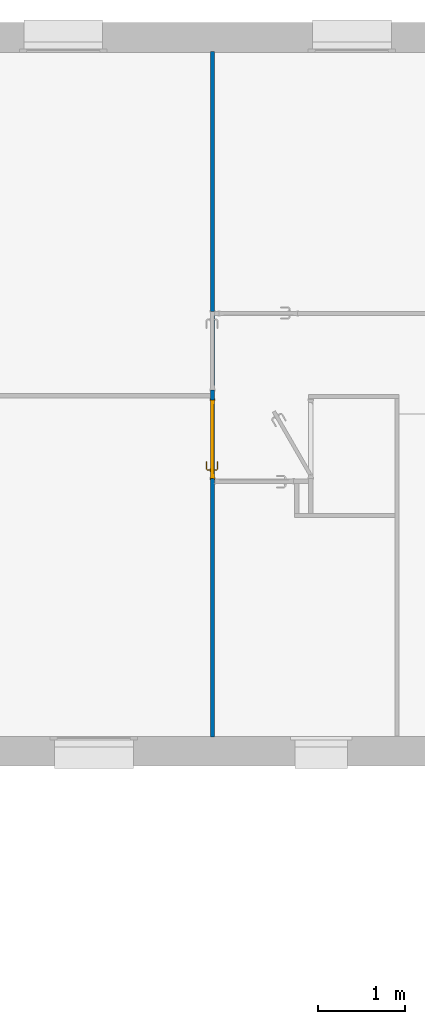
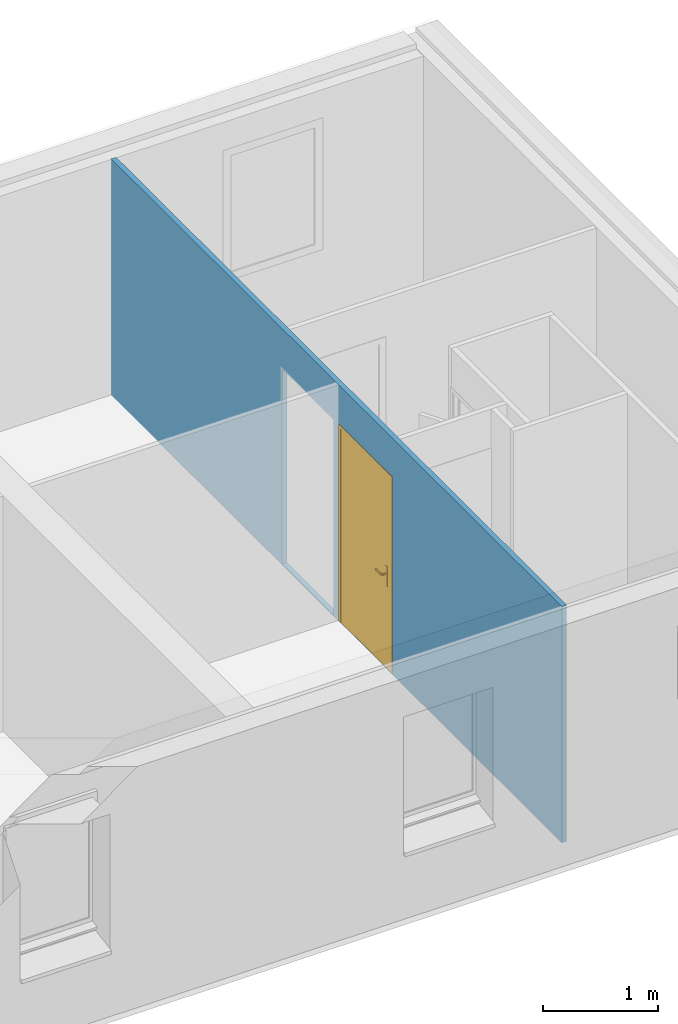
# One storey, part 8 of 13: 1 door, 1 wall, 3 openings.
"""IFC2X3 building model written with IfcOpenShell, lengths in metres."""

from ifc_helpers import new_model, entity, si_unit, converted_unit, derived_unit, direction, frame, frame_2d, origin, place, context, subcontext, project, spatial, rectangle, extrude, faceted_brep, source, transform, mapped, material, material_list, layer, layer_set, layer_usage, type_object, type_shapes, element, fill, save


model = new_model("IFC2X3")

# Units and contexts
model_context = context("Model", 3, precision=1e-05, world=origin(), true_north=direction((6.12303176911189e-17, 1.0)))
context_of_model = context(None, 3, precision=1e-05, world=origin(), true_north=direction((6.12303176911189e-17, 1.0)))
body_context = subcontext(model_context, "Body", "Model", "MODEL_VIEW")
ifc_project = project(units=[si_unit("LENGTHUNIT", "METRE"), si_unit("AREAUNIT", "SQUARE_METRE"), si_unit("VOLUMEUNIT", "CUBIC_METRE"), converted_unit("PLANEANGLEUNIT", "DEGREE", entity("IfcRatioMeasure", 0.0174532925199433), si_unit("PLANEANGLEUNIT", "RADIAN"), dimensions=[0, 0, 0, 0, 0, 0, 0]), si_unit("MASSUNIT", "GRAM", prefix="KILO"), si_unit("TIMEUNIT", "SECOND"), si_unit("FREQUENCYUNIT", "HERTZ"), si_unit("THERMODYNAMICTEMPERATUREUNIT", "DEGREE_CELSIUS"), derived_unit("THERMALTRANSMITTANCEUNIT", [(si_unit("MASSUNIT", "GRAM", prefix="KILO"), 1), (si_unit("THERMODYNAMICTEMPERATUREUNIT", "KELVIN"), -1), (si_unit("TIMEUNIT", "SECOND"), -3)]), derived_unit("VOLUMETRICFLOWRATEUNIT", [(si_unit("LENGTHUNIT", "METRE"), 3), (si_unit("TIMEUNIT", "SECOND"), -1)]), si_unit("ELECTRICCURRENTUNIT", "AMPERE"), si_unit("ELECTRICVOLTAGEUNIT", "VOLT"), si_unit("POWERUNIT", "WATT"), si_unit("FORCEUNIT", "NEWTON", prefix="KILO"), si_unit("ILLUMINANCEUNIT", "LUX"), si_unit("LUMINOUSFLUXUNIT", "LUMEN"), si_unit("LUMINOUSINTENSITYUNIT", "CANDELA"), derived_unit("USERDEFINED", [(si_unit("MASSUNIT", "GRAM", prefix="KILO"), -1), (si_unit("LENGTHUNIT", "METRE"), -2), (si_unit("TIMEUNIT", "SECOND"), 3), (si_unit("LUMINOUSFLUXUNIT", "LUMEN"), 1)]), derived_unit("LINEARVELOCITYUNIT", [(si_unit("LENGTHUNIT", "METRE"), 1), (si_unit("TIMEUNIT", "SECOND"), -1)]), si_unit("PRESSUREUNIT", "PASCAL"), derived_unit("USERDEFINED", [(si_unit("LENGTHUNIT", "METRE"), -2), (si_unit("MASSUNIT", "GRAM", prefix="KILO"), 1), (si_unit("TIMEUNIT", "SECOND"), -2)])], contexts=[model_context, context_of_model])

# Site, building, storey
site_placement = place(None, origin())
site = spatial("IfcSite", under=ifc_project, at=site_placement, Name="Surface", CompositionType="ELEMENT")
building_placement = place(site_placement, origin())
building = spatial("IfcBuilding", under=site, at=building_placement, CompositionType="ELEMENT")
storey_placement = place(building_placement, frame((0.0, 0.0, 2.74)))
storey = spatial("IfcBuildingStorey", under=building, at=storey_placement, Name="Plan étage", CompositionType="ELEMENT", Elevation=2.74)

# Wall, openings, door
ifc_material_1 = material(Name="Maçonnerie - Isolant(1)")
ifc_layer = layer(ifc_material_1, 0.05)
ifc_layer_set = layer_set([ifc_layer], Name="Mur de base:Int. plâtre 50 mm")
ifc_layer_usage = layer_usage(ifc_layer_set, "AXIS2", "NEGATIVE", 0.025)
wall_type = type_object("IfcWallType", Name="Mur de base:Int. plâtre 50 mm", PredefinedType="STANDARD", material=ifc_layer_set)
wall_placement = place(storey_placement, frame((-1.68108881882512, 5.35425578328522, -0.00999999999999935), z_axis=(0.0, 0.0, 1.0), x_axis=(0.0, -1.0, 0.0)))
wall = element("IfcWallStandardCase", 1, at=wall_placement, inside=storey, type_object=wall_type, material=ifc_layer_usage, Name="Mur de base:Int. plâtre 50 mm", ObjectType="Mur de base:Int. plâtre 50 mm", context=body_context, shape_type="SweptSolid", body=[
    extrude(rectangle(XDim=7.84000000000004, YDim=0.05, at=frame_2d((3.92000000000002, 0.0), x_axis=(-1.0, 0.0))), origin(), (0.0, 0.0, 1.0), 2.51),
])
opening_1_placement = place(wall_placement, origin())
element("IfcOpeningElement", 2, at=opening_1_placement, cuts=wall, Name="Mur de base:Int. plâtre 50 mm", ObjectType="Opening", context=body_context, shape_type="SweptSolid", body=[
    extrude(rectangle(XDim=2.075, YDim=0.05, at=frame_2d((0.0, 3.33066907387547e-16), x_axis=(0.0, 1.0))), frame((4.915, 0.0274999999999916, 1.0475), z_axis=(0.0, 1.0, 0.0), x_axis=(1.0, 0.0, 0.0)), (0.0, 0.0, 1.0), 0.9),
])
opening_2_placement = place(wall_placement, frame((4.8825, 0.025, 0.00999999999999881)))
opening_2 = element("IfcOpeningElement", 3, at=opening_2_placement, cuts=wall, Name="Int. Simple:PP (0.83m x 2.04m):1", ObjectType="Opening", context=body_context, shape_type="SweptSolid", body=[
    extrude(rectangle(XDim=2.075, YDim=0.9, at=frame_2d((1.0375, 0.45), x_axis=(1.0, 0.0))), frame((0.0, 0.0, 0.0), z_axis=(0.0, -1.0, 0.0), x_axis=(0.0, 0.0, 1.0)), (0.0, 0.0, 1.0), 0.05),
])
opening_3_placement = place(wall_placement, frame((3.87, 0.025, 0.00999999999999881)))
element("IfcOpeningElement", 4, at=opening_3_placement, cuts=wall, Name="Int. Simple:PP (0.83m x 2.04m):1", ObjectType="Opening", context=body_context, shape_type="SweptSolid", body=[
    extrude(rectangle(XDim=2.075, YDim=0.9, at=frame_2d((1.0375, 0.45), x_axis=(1.0, 0.0))), frame((0.0, 0.0, 0.0), z_axis=(0.0, -1.0, 0.0), x_axis=(0.0, 0.0, 1.0)), (0.0, 0.0, 1.0), 0.05),
])
ifc_material_2 = material(Name="Finition Peinture - Blanc satiné")
ifc_material_3 = material(Name="Bois - Panneau de porte")
ifc_material_4 = material(Name="Bois - Cadre de porte")
ifc_material_list_1 = material_list([ifc_material_2, ifc_material_3, ifc_material_4])
ifc_material_list_2 = material_list([ifc_material_2, ifc_material_3, ifc_material_4])
door_style = type_object("IfcDoorStyle", Name="PP (0.83m x 2.04m)", ConstructionType="NOTDEFINED", OperationType="SINGLE_SWING_RIGHT", ParameterTakesPrecedence=False, Sizeable=False, material=ifc_material_list_2)
shared_shape = source(origin(), body_context, "Body", "Brep", [
    faceted_brep([(0.895000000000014, -0.00500000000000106, 0.870000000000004), (0.895000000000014, -0.00500000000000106, 1.08), (0.885352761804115, -0.00500000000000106, 1.08399601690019), (0.875000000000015, -0.00500000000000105, 1.08535898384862), (0.864647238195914, -0.00500000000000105, 1.08399601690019), (0.855000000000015, -0.00500000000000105, 1.08), (0.855000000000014, -0.00500000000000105, 0.870000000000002), (0.864647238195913, -0.00500000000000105, 0.866003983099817), (0.875000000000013, -0.00500000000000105, 0.86464101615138), (0.885352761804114, -0.00500000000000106, 0.866003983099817), (0.895000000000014, 0.0, 1.08), (0.895000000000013, 0.0, 0.870000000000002), (0.885352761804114, 0.0, 0.866003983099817), (0.875000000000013, 0.0, 0.86464101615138), (0.864647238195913, 0.0, 0.866003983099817), (0.855000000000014, 0.0, 0.870000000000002), (0.855000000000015, 0.0, 1.08), (0.864647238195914, 0.0, 1.08399601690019), (0.875000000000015, 0.0, 1.08535898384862), (0.885352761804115, 0.0, 1.08399601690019)], [[[0, 1, 2, 3, 4, 5, 6, 7, 8, 9]], [[10, 11, 12, 13, 14, 15, 16, 17, 18, 19]], [[9, 12, 11, 0]], [[8, 13, 12, 9]], [[7, 14, 13, 8]], [[7, 6, 15, 14]], [[15, 6, 5, 16]], [[4, 17, 16, 5]], [[3, 18, 17, 4]], [[2, 19, 18, 3]], [[2, 1, 10, 19]], [[11, 10, 1, 0]]]),
    faceted_brep([(0.895000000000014, 0.0399999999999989, 0.870000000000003), (0.895000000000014, 0.0399999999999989, 1.08), (0.885352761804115, 0.0399999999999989, 1.08399601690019), (0.875000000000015, 0.0399999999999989, 1.08535898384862), (0.864647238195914, 0.0399999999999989, 1.08399601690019), (0.855000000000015, 0.0399999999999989, 1.08), (0.855000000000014, 0.0399999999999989, 0.870000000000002), (0.864647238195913, 0.0399999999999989, 0.866003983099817), (0.875000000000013, 0.0399999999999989, 0.86464101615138), (0.885352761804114, 0.0399999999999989, 0.866003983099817), (0.875000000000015, 0.0449999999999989, 1.08535898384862), (0.885352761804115, 0.0449999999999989, 1.08399601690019), (0.895000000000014, 0.0449999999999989, 1.08), (0.895000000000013, 0.0449999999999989, 0.870000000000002), (0.885352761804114, 0.0449999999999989, 0.866003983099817), (0.875000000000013, 0.0449999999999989, 0.86464101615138), (0.864647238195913, 0.0449999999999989, 0.866003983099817), (0.855000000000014, 0.0449999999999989, 0.870000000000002), (0.855000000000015, 0.0449999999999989, 1.08), (0.864647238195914, 0.0449999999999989, 1.08399601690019)], [[[0, 1, 2, 3, 4, 5, 6, 7, 8, 9]], [[10, 11, 12, 13, 14, 15, 16, 17, 18, 19]], [[4, 19, 18, 5]], [[3, 10, 19, 4]], [[2, 11, 10, 3]], [[2, 1, 12, 11]], [[13, 12, 1, 0]], [[9, 14, 13, 0]], [[8, 15, 14, 9]], [[7, 16, 15, 8]], [[7, 6, 17, 16]], [[17, 6, 5, 18]]]),
    faceted_brep([(0.872974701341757, -0.0050000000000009, 1.00778044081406), (0.877025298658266, -0.00500000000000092, 1.00778044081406), (0.881000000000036, -0.00500000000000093, 1.00699999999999), (0.881000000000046, -0.00500000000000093, 0.992999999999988), (0.877025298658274, -0.00500000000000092, 0.99221955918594), (0.872974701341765, -0.0050000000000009, 0.992219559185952), (0.868999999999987, -0.00500000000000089, 0.993000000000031), (0.868999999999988, -0.00500000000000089, 1.007), (0.877025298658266, -0.0310045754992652, 1.00778044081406), (0.881000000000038, -0.0326509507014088, 1.007), (0.872974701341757, -0.0293267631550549, 1.00778044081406), (0.859298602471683, -0.0430028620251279, 1.00778044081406), (0.860976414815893, -0.0470534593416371, 1.00778044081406), (0.868999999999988, -0.0276803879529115, 1.007), (0.868999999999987, -0.0276803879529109, 0.993000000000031), (0.872974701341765, -0.0293267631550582, 0.992219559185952), (0.877025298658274, -0.0310045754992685, 0.99221955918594), (0.860976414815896, -0.047053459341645, 0.99221955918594), (0.859298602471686, -0.0430028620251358, 0.992219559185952), (0.881000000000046, -0.0326509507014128, 0.992999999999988), (0.862622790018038, -0.0510281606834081, 1.007), (0.85765222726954, -0.0390281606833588, 1.007), (0.857652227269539, -0.0390281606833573, 0.993000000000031), (0.862622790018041, -0.0510281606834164, 0.992999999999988), (0.774981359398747, -0.0510281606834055, 1.007), (0.774981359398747, -0.0470534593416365, 1.00778044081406), (0.774981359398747, -0.0430028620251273, 1.00778044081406), (0.774981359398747, -0.0390281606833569, 1.00699999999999), (0.774981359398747, -0.0390281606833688, 0.993000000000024), (0.774981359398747, -0.0430028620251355, 0.992219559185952), (0.774981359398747, -0.0470534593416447, 0.99221955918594), (0.774981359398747, -0.0510281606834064, 0.992999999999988), (0.81713998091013, -0.045028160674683, 1.0078786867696), (0.822692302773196, -0.051028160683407, 1.007), (0.816316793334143, -0.039028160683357, 1.007), (0.816316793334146, -0.0390281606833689, 0.993000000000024), (0.817139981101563, -0.0450281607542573, 0.992121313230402), (0.822692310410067, -0.0510281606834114, 0.992999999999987)], [[[0, 1, 2, 3, 4, 5, 6, 7]], [[2, 1, 8, 9]], [[1, 0, 10, 11, 12, 8]], [[0, 7, 13, 10]], [[14, 13, 7, 6]], [[5, 15, 14, 6]], [[5, 4, 16, 17, 18, 15]], [[3, 19, 16, 4]], [[9, 19, 3, 2]], [[9, 8, 12, 20]], [[10, 13, 21, 11]], [[22, 21, 13, 14]], [[14, 15, 18, 22]], [[16, 19, 23, 17]], [[20, 23, 19, 9]], [[24, 25, 26, 27, 28, 29, 30, 31]], [[32, 25, 33]], [[33, 25, 24]], [[33, 20, 12]], [[11, 34, 32]], [[34, 11, 21]], [[27, 26, 34]], [[32, 26, 25]], [[32, 34, 26]], [[32, 33, 12]], [[11, 32, 12]], [[21, 22, 35, 28, 27, 34]], [[36, 29, 35]], [[30, 36, 37]], [[18, 35, 22]], [[29, 28, 35]], [[30, 37, 31]], [[37, 17, 23]], [[36, 17, 37]], [[36, 18, 17]], [[36, 35, 18]], [[29, 36, 30]], [[23, 20, 33, 24, 31, 37]]]),
    faceted_brep([(0.872974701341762, 0.0449999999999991, 0.992219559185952), (0.877025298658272, 0.0449999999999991, 0.99221955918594), (0.881000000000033, 0.044999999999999, 0.992999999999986), (0.881000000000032, 0.044999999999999, 1.007), (0.877025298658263, 0.0449999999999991, 1.00778044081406), (0.872974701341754, 0.0449999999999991, 1.00778044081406), (0.868999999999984, 0.0449999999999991, 1.007), (0.868999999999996, 0.0449999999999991, 0.993000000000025), (0.868999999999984, 0.067485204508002, 1.007), (0.868999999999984, 0.0674852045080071, 0.993000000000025), (0.872974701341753, 0.0691315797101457, 1.00778044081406), (0.877025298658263, 0.070809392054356, 1.00778044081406), (0.860838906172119, 0.0869957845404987, 1.00778044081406), (0.859161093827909, 0.0829451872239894, 1.00778044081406), (0.881000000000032, 0.0724557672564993, 1.007), (0.881000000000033, 0.0724557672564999, 0.992999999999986), (0.877025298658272, 0.0708093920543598, 0.99221955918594), (0.872974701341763, 0.0691315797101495, 0.992219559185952), (0.859161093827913, 0.0829451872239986, 0.992219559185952), (0.860838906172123, 0.0869957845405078, 0.99221955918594), (0.857514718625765, 0.0789704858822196, 1.007), (0.857514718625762, 0.0789704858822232, 0.993000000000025), (0.862485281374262, 0.0909704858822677, 1.007), (0.862485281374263, 0.0909704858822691, 0.992999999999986), (0.77495421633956, 0.0829451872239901, 1.00778044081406), (0.77495421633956, 0.0869957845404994, 1.00778044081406), (0.77495421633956, 0.0909704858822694, 1.007), (0.77495421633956, 0.0909704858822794, 0.992999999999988), (0.77495421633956, 0.086995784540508, 0.99221955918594), (0.77495421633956, 0.0829451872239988, 0.992219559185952), (0.77495421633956, 0.0789704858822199, 0.993000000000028), (0.77495421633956, 0.0789704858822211, 1.007), (0.816234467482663, 0.0789704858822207, 1.007), (0.816234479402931, 0.0789704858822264, 0.993000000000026), (0.817057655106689, 0.0849704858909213, 1.0078786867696), (0.822554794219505, 0.0909704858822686, 1.007), (0.822554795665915, 0.0909704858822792, 0.992999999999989), (0.817057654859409, 0.0849704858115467, 0.992121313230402)], [[[0, 1, 2, 3, 4, 5, 6, 7]], [[8, 9, 7, 6]], [[5, 10, 8, 6]], [[5, 4, 11, 12, 13, 10]], [[3, 14, 11, 4]], [[14, 3, 2, 15]], [[2, 1, 16, 15]], [[1, 0, 17, 18, 19, 16]], [[0, 7, 9, 17]], [[20, 21, 9, 8]], [[8, 10, 13, 20]], [[14, 22, 12, 11]], [[23, 22, 14, 15]], [[15, 16, 19, 23]], [[17, 9, 21, 18]], [[24, 25, 26, 27, 28, 29, 30, 31]], [[21, 20, 32, 31, 30, 33]], [[34, 24, 32]], [[25, 34, 35]], [[13, 32, 20]], [[24, 31, 32]], [[25, 35, 26]], [[35, 12, 22]], [[34, 12, 35]], [[34, 13, 12]], [[34, 32, 13]], [[24, 34, 25]], [[22, 23, 36, 27, 26, 35]], [[37, 28, 36]], [[36, 28, 27]], [[36, 23, 19]], [[18, 33, 37]], [[33, 18, 21]], [[30, 29, 33]], [[37, 29, 28]], [[37, 33, 29]], [[37, 36, 19]], [[18, 37, 19]]]),
    faceted_brep([(0.935000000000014, 0.04, 2.04), (0.935000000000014, 0.04, 0.0), (0.105000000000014, 0.04, 0.0), (0.105000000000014, 0.04, 2.04), (0.935000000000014, 0.0, 2.04), (0.105000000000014, 0.0, 2.04), (0.105000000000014, 0.0, 0.0), (0.935000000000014, 0.0, 0.0)], [[[0, 1, 2, 3]], [[4, 5, 6, 7]], [[3, 5, 4, 0]], [[2, 6, 5, 3]], [[1, 7, 6, 2]], [[0, 4, 7, 1]]]),
    faceted_brep([(0.970000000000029, 0.0, 0.0), (0.935000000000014, 0.0, 0.0), (0.935000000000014, 0.040000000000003, 0.0), (0.920000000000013, 0.040000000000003, 0.0), (0.920000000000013, 0.050000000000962, 0.0), (0.970000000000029, 0.050000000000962, 0.0), (0.970000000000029, 0.050000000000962, 2.07500000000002), (0.970000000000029, 0.0, 2.07500000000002), (0.920000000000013, 0.050000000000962, 2.025), (0.120000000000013, 0.050000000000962, 2.025), (0.120000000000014, 0.050000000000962, 0.0), (0.0699999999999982, 0.050000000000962, 0.0), (0.0699999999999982, 0.050000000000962, 2.07500000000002), (0.920000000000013, 0.040000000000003, 2.025), (0.935000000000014, 0.040000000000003, 2.04), (0.105000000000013, 0.040000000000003, 2.04), (0.105000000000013, 0.040000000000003, 0.0), (0.120000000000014, 0.040000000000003, 0.0), (0.120000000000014, 0.040000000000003, 2.025), (0.935000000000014, 0.0, 2.04), (0.069999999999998, 0.0, 2.07500000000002), (0.0699999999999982, 0.0, 0.0), (0.105000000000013, 0.0, 0.0), (0.105000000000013, 0.0, 2.04)], [[[0, 1, 2, 3, 4, 5]], [[5, 6, 7, 0]], [[4, 8, 9, 10, 11, 12, 6, 5]], [[3, 13, 8, 4]], [[2, 14, 15, 16, 17, 18, 13, 3]], [[1, 19, 14, 2]], [[0, 7, 20, 21, 22, 23, 19, 1]], [[12, 11, 21, 20]], [[21, 11, 10, 17, 16, 22]], [[18, 17, 10, 9]], [[23, 22, 16, 15]], [[6, 12, 20, 7]], [[13, 18, 9, 8]], [[19, 23, 15, 14]]]),
    faceted_brep([(0.955000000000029, 0.050000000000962, 0.0), (0.955000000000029, 0.055000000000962, 0.0), (0.985000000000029, 0.055000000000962, 0.0), (0.985000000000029, 0.050000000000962, 0.0), (0.985000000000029, 0.050000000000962, 2.09000000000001), (0.0550000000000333, 0.050000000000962, 2.09000000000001), (0.0550000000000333, 0.050000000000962, 0.0), (0.0850000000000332, 0.050000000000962, 0.0), (0.0850000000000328, 0.050000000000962, 2.06000000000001), (0.955000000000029, 0.050000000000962, 2.06000000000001), (0.985000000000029, 0.055000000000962, 2.09000000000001), (0.955000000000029, 0.055000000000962, 2.06000000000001), (0.0850000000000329, 0.055000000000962, 2.06000000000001), (0.0850000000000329, 0.055000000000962, 0.0), (0.055000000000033, 0.055000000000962, 0.0), (0.0550000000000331, 0.055000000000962, 2.09000000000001)], [[[0, 1, 2, 3]], [[3, 4, 5, 6, 7, 8, 9, 0]], [[2, 10, 4, 3]], [[1, 11, 12, 13, 14, 15, 10, 2]], [[0, 9, 11, 1]], [[7, 6, 14, 13]], [[8, 7, 13, 12]], [[15, 14, 6, 5]], [[10, 15, 5, 4]], [[9, 8, 12, 11]]]),
    faceted_brep([(0.985000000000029, -0.005, 0.0), (0.985000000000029, -0.005, 2.09000000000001), (0.0550000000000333, -0.005, 2.09000000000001), (0.0550000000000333, -0.005, 0.0), (0.0850000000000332, -0.005, 0.0), (0.0850000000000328, -0.005, 2.06000000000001), (0.955000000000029, -0.005, 2.06000000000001), (0.955000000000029, -0.005, 0.0), (0.985000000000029, 0.0, 0.0), (0.985000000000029, 0.0, 2.09000000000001), (0.955000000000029, 0.0, 0.0), (0.955000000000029, 0.0, 2.06000000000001), (0.0850000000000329, 0.0, 2.06000000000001), (0.0850000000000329, 0.0, 0.0), (0.055000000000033, 0.0, 0.0), (0.0550000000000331, 0.0, 2.09000000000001)], [[[0, 1, 2, 3, 4, 5, 6, 7]], [[8, 9, 1, 0]], [[10, 11, 12, 13, 14, 15, 9, 8]], [[7, 6, 11, 10]], [[5, 4, 13, 12]], [[15, 14, 3, 2]], [[9, 15, 2, 1]], [[6, 5, 12, 11]], [[4, 3, 14, 13]], [[7, 10, 8, 0]]]),
])
type_shapes(door_style, [shared_shape])
door_placement = place(opening_2_placement, frame((-0.970000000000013, -0.0499999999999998, 0.0)))
door = element("IfcDoor", 5, at=door_placement, inside=storey, type_object=door_style, material=ifc_material_list_1, Name="Int. Simple:PP (0.83m x 2.04m)", ObjectType="PP (0.83m x 2.04m)", OverallHeight=2.075, OverallWidth=0.9, context=body_context, shape_type="MappedRepresentation", body=[
    mapped(shared_shape, transform((0.0, 0.0, 0.0), scale=1.0)),
])
fill(opening_2, door)

save(model, "model.ifc")
